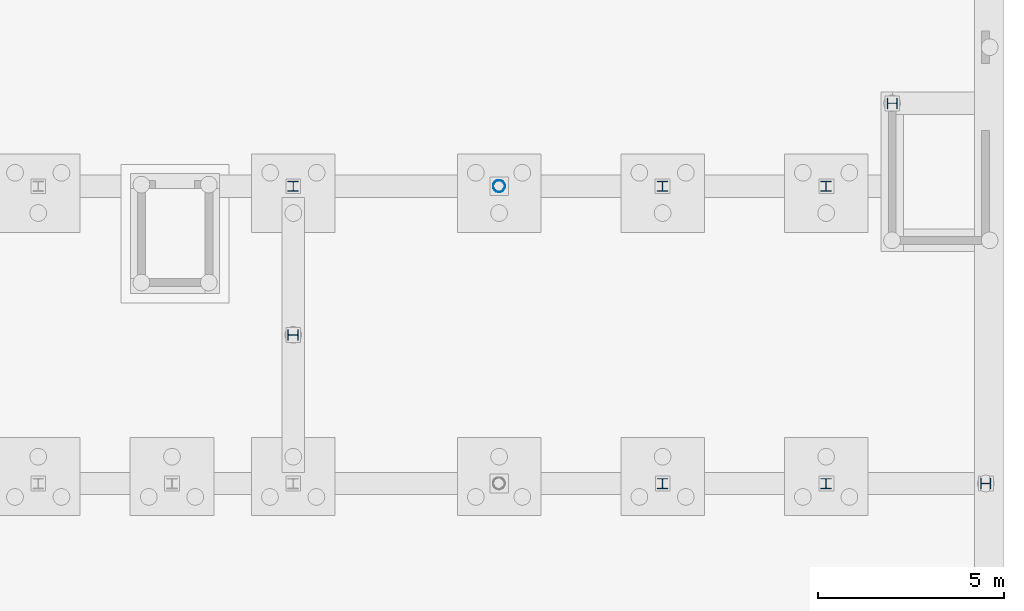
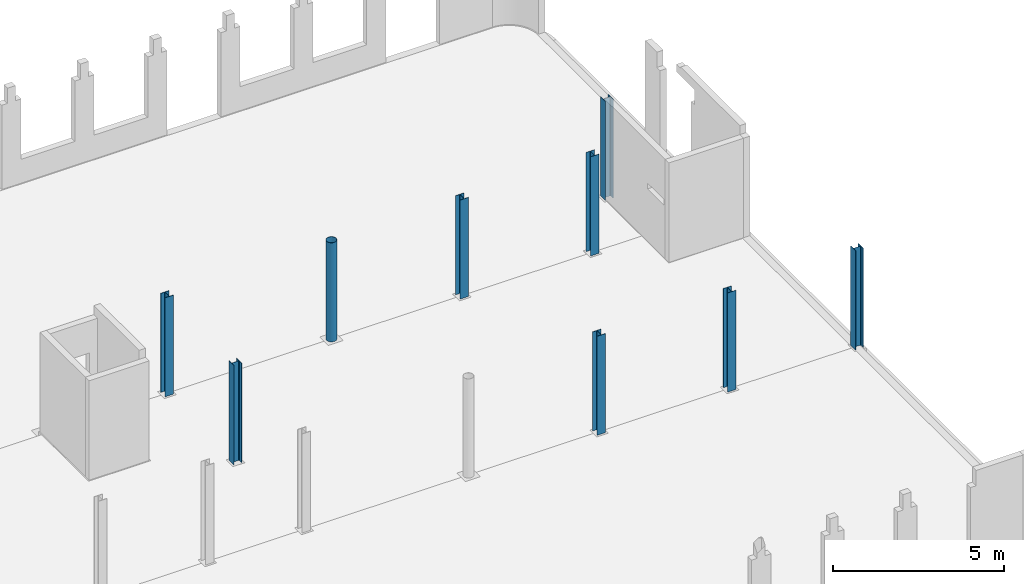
# One storey, part 13 of 26: 9 columns.
"""IFC2X3 building model written with IfcOpenShell, lengths in millimetres."""

from ifc_helpers import new_model, entity, si_unit, converted_unit, derived_unit, direction, frame, frame_2d, origin, origin_2d_with_axis, place, context, subcontext, project, spatial, hollow_circle, i_section, extrude, source, transform, mapped, material, type_object, type_shapes, element, save


model = new_model("IFC2X3")

# Units and contexts
model_context = context("Model", 3, precision=0.01, world=origin(), true_north=direction((6.123031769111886e-17, 1.0)))
body_context = subcontext(model_context, "Body", "Model", "MODEL_VIEW")
ifc_project = project(units=[si_unit("LENGTHUNIT", "METRE", prefix="MILLI"), si_unit("AREAUNIT", "SQUARE_METRE"), si_unit("VOLUMEUNIT", "CUBIC_METRE"), derived_unit("MASSDENSITYUNIT", [(si_unit("MASSUNIT", "GRAM", prefix="KILO"), 1), (si_unit("LENGTHUNIT", "METRE"), -3)]), si_unit("MASSUNIT", "GRAM", prefix="KILO"), converted_unit("PLANEANGLEUNIT", "DEGREE", entity("IfcPlaneAngleMeasure", 0.017453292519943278), si_unit("PLANEANGLEUNIT", "RADIAN"), dimensions=[0, 0, 0, 0, 0, 0, 0])], contexts=[model_context])

# Site, building, storey
site_placement = place(None, origin())
site = spatial("IfcSite", under=ifc_project, at=site_placement, Name="Default", CompositionType="ELEMENT")
building_placement = place(site_placement, origin())
building = spatial("IfcBuilding", under=site, at=building_placement, Name="AT constructie", CompositionType="ELEMENT")
storey_placement = place(building_placement, origin())
storey = spatial("IfcBuildingStorey", under=building, at=storey_placement, Name="00 begane grond", CompositionType="ELEMENT", Elevation=-1.0828671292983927e-12)

# Columns
ifc_material = material(Name="h2_staal_S355")
column_type_1 = type_object("IfcColumnType", Name="kolom_gen_HEA280", PredefinedType="COLUMN", material=ifc_material)
shared_shape_1 = source(origin(), body_context, "Body", "SweptSolid", [
    extrude(i_section(OverallWidth=280.0000000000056, OverallDepth=269.99999999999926, WebThickness=7.999999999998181, FlangeThickness=13.000000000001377, FilletRadius=24.0, at=frame_2d((0.0, -4.320099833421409e-12), x_axis=(1.0, 0.0))), frame((103746.87463111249, 31271.043508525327, -50.0)), (0.0, 0.0, 1.0), 3529.0000000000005),
])
type_shapes(column_type_1, [shared_shape_1])
column_1_placement = place(storey_placement, origin())
element("IfcColumn", 1, at=column_1_placement, inside=storey, type_object=column_type_1, material=ifc_material, Name="NLRS_28_SC_TLB_kolom HEA_gen_AT:kolom_gen_HEA280", ObjectType="NLRS_28_SC_TLB_kolom HEA_gen_AT:kolom_gen_HEA280", context=body_context, shape_type="MappedRepresentation", body=[
    mapped(shared_shape_1, transform((0.0, 0.0, 0.0), scale=1.0)),
])
column_type_2 = type_object("IfcColumnType", Name="kolom_gen_HEA280", PredefinedType="COLUMN", material=ifc_material)
shared_shape_2 = source(origin(), body_context, "Body", "SweptSolid", [
    extrude(i_section(OverallWidth=280.0000000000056, OverallDepth=269.99999999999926, WebThickness=7.999999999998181, FlangeThickness=13.000000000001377, FilletRadius=24.0, at=origin_2d_with_axis()), frame((99346.8746311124, 31271.043508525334, -50.0)), (0.0, 0.0, 1.0), 3529.0000000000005),
])
type_shapes(column_type_2, [shared_shape_2])
column_2_placement = place(storey_placement, origin())
element("IfcColumn", 2, at=column_2_placement, inside=storey, type_object=column_type_2, material=ifc_material, Name="NLRS_28_SC_TLB_kolom HEA_gen_AT:kolom_gen_HEA280", ObjectType="NLRS_28_SC_TLB_kolom HEA_gen_AT:kolom_gen_HEA280", context=body_context, shape_type="MappedRepresentation", body=[
    mapped(shared_shape_2, transform((0.0, 0.0, 0.0), scale=1.0)),
])
column_type_3 = type_object("IfcColumnType", Name="kolom_gen_ø323.9x8", PredefinedType="COLUMN", material=ifc_material)
shared_shape_3 = source(origin(), body_context, "Body", "SweptSolid", [
    extrude(hollow_circle(Radius=161.95, WallThickness=8.0, at=origin_2d_with_axis()), frame((94946.87463111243, 31271.04350852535, -50.0), z_axis=(0.0, 0.0, 1.0), x_axis=(-1.0, 0.0, 0.0)), (0.0, 0.0, 1.0), 3529.0000000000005),
])
type_shapes(column_type_3, [shared_shape_3])
column_3_placement = place(storey_placement, origin())
element("IfcColumn", 3, at=column_3_placement, inside=storey, type_object=column_type_3, material=ifc_material, Name="NLRS_28_SC_TLB_kolom buis_gen_AT:kolom_gen_ø323.9x8", ObjectType="NLRS_28_SC_TLB_kolom buis_gen_AT:kolom_gen_ø323.9x8", context=body_context, shape_type="MappedRepresentation", body=[
    mapped(shared_shape_3, transform((0.0, 0.0, 0.0), scale=1.0)),
])
column_type_4 = type_object("IfcColumnType", Name="kolom_gen_HEA280", PredefinedType="COLUMN", material=ifc_material)
shared_shape_4 = source(origin(), body_context, "Body", "SweptSolid", [
    extrude(i_section(OverallWidth=280.0000000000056, OverallDepth=269.99999999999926, WebThickness=7.999999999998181, FlangeThickness=13.000000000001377, FilletRadius=24.0, at=frame_2d((0.0, -4.320099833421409e-12), x_axis=(1.0, 0.0))), frame((103746.87463111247, 23271.043508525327, -50.0)), (0.0, 0.0, 1.0), 3529.0000000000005),
])
type_shapes(column_type_4, [shared_shape_4])
column_4_placement = place(storey_placement, origin())
element("IfcColumn", 4, at=column_4_placement, inside=storey, type_object=column_type_4, material=ifc_material, Name="NLRS_28_SC_TLB_kolom HEA_gen_AT:kolom_gen_HEA280", ObjectType="NLRS_28_SC_TLB_kolom HEA_gen_AT:kolom_gen_HEA280", context=body_context, shape_type="MappedRepresentation", body=[
    mapped(shared_shape_4, transform((0.0, 0.0, 0.0), scale=1.0)),
])
column_type_5 = type_object("IfcColumnType", Name="kolom_gen_HEA280", PredefinedType="COLUMN", material=ifc_material)
shared_shape_5 = source(origin(), body_context, "Body", "SweptSolid", [
    extrude(i_section(OverallWidth=280.0000000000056, OverallDepth=269.99999999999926, WebThickness=7.999999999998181, FlangeThickness=13.000000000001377, FilletRadius=24.0, at=frame_2d((0.0, 4.320099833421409e-12), x_axis=(1.0, 0.0))), frame((99346.87463111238, 23271.04350852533, -50.0)), (0.0, 0.0, 1.0), 3529.0000000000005),
])
type_shapes(column_type_5, [shared_shape_5])
column_5_placement = place(storey_placement, origin())
element("IfcColumn", 5, at=column_5_placement, inside=storey, type_object=column_type_5, material=ifc_material, Name="NLRS_28_SC_TLB_kolom HEA_gen_AT:kolom_gen_HEA280", ObjectType="NLRS_28_SC_TLB_kolom HEA_gen_AT:kolom_gen_HEA280", context=body_context, shape_type="MappedRepresentation", body=[
    mapped(shared_shape_5, transform((0.0, 0.0, 0.0), scale=1.0)),
])
column_type_6 = type_object("IfcColumnType", Name="kolom_gen_HEA280", PredefinedType="COLUMN", material=ifc_material)
shared_shape_6 = source(origin(), body_context, "Body", "SweptSolid", [
    extrude(i_section(OverallWidth=279.999999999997, OverallDepth=270.0000000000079, WebThickness=7.999999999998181, FlangeThickness=12.999999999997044, FilletRadius=24.0, at=origin_2d_with_axis()), frame((108043.87463111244, 23271.0435085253, -50.0), z_axis=(0.0, 0.0, 1.0), x_axis=(0.0, 1.0, 0.0)), (0.0, 0.0, 1.0), 3529.0000000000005),
])
type_shapes(column_type_6, [shared_shape_6])
column_6_placement = place(storey_placement, origin())
element("IfcColumn", 6, at=column_6_placement, inside=storey, type_object=column_type_6, material=ifc_material, Name="NLRS_28_SC_TLB_kolom HEA_gen_AT:kolom_gen_HEA280", ObjectType="NLRS_28_SC_TLB_kolom HEA_gen_AT:kolom_gen_HEA280", context=body_context, shape_type="MappedRepresentation", body=[
    mapped(shared_shape_6, transform((0.0, 0.0, 0.0), scale=1.0)),
])
column_type_7 = type_object("IfcColumnType", Name="kolom_gen_HEA280", PredefinedType="COLUMN", material=ifc_material)
shared_shape_7 = source(origin(), body_context, "Body", "SweptSolid", [
    extrude(i_section(OverallWidth=279.999999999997, OverallDepth=270.00000000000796, WebThickness=7.999999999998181, FlangeThickness=12.999999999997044, FilletRadius=24.0, at=frame_2d((8.668621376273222e-12, 1.7323031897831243e-11), x_axis=(1.0, 0.0))), frame((105520.37463489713, 33501.0435085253, -50.0), z_axis=(0.0, 0.0, 1.0), x_axis=(0.0, 1.0, 0.0)), (0.0, 0.0, 1.0), 3529.0000000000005),
])
type_shapes(column_type_7, [shared_shape_7])
column_7_placement = place(storey_placement, origin())
element("IfcColumn", 7, at=column_7_placement, inside=storey, type_object=column_type_7, material=ifc_material, Name="NLRS_28_SC_TLB_kolom HEA_gen_AT:kolom_gen_HEA280", ObjectType="NLRS_28_SC_TLB_kolom HEA_gen_AT:kolom_gen_HEA280", context=body_context, shape_type="MappedRepresentation", body=[
    mapped(shared_shape_7, transform((0.0, 0.0, 0.0), scale=1.0)),
])
column_type_8 = type_object("IfcColumnType", Name="kolom_gen_HEA280", PredefinedType="COLUMN", material=ifc_material)
shared_shape_8 = source(origin(), body_context, "Body", "SweptSolid", [
    extrude(i_section(OverallWidth=279.999999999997, OverallDepth=270.00000000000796, WebThickness=7.999999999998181, FlangeThickness=12.999999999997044, FilletRadius=24.0, at=frame_2d((-4.320099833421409e-12, -1.7323031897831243e-11), x_axis=(1.0, 0.0))), frame((89402.37463111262, 27271.04350852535, -50.0), z_axis=(0.0, 0.0, 1.0), x_axis=(0.0, -1.0, 0.0)), (0.0, 0.0, 1.0), 3544.000000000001),
])
type_shapes(column_type_8, [shared_shape_8])
column_8_placement = place(storey_placement, origin())
element("IfcColumn", 8, at=column_8_placement, inside=storey, type_object=column_type_8, material=ifc_material, Name="NLRS_28_SC_TLB_kolom HEA_gen_AT:kolom_gen_HEA280", ObjectType="NLRS_28_SC_TLB_kolom HEA_gen_AT:kolom_gen_HEA280", context=body_context, shape_type="MappedRepresentation", body=[
    mapped(shared_shape_8, transform((0.0, 0.0, 0.0), scale=1.0)),
])
column_type_9 = type_object("IfcColumnType", Name="kolom_gen_HEA280", PredefinedType="COLUMN", material=ifc_material)
shared_shape_9 = source(origin(), body_context, "Body", "SweptSolid", [
    extrude(i_section(OverallWidth=280.0000000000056, OverallDepth=269.99999999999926, WebThickness=7.999999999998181, FlangeThickness=13.000000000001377, FilletRadius=24.0, at=frame_2d((0.0, 8.668621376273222e-12), x_axis=(1.0, 0.0))), frame((89407.37463111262, 31271.04350852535, -50.0)), (0.0, 0.0, 1.0), 3529.0000000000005),
])
type_shapes(column_type_9, [shared_shape_9])
column_9_placement = place(storey_placement, origin())
element("IfcColumn", 9, at=column_9_placement, inside=storey, type_object=column_type_9, material=ifc_material, Name="NLRS_28_SC_TLB_kolom HEA_gen_AT:kolom_gen_HEA280", ObjectType="NLRS_28_SC_TLB_kolom HEA_gen_AT:kolom_gen_HEA280", context=body_context, shape_type="MappedRepresentation", body=[
    mapped(shared_shape_9, transform((0.0, 0.0, 0.0), scale=1.0)),
])

save(model, "model.ifc")
